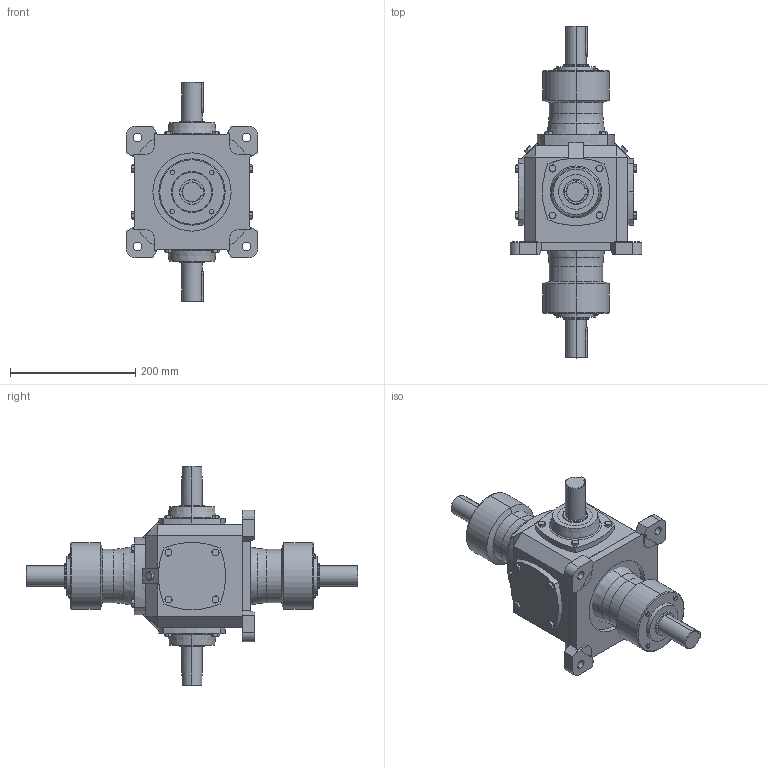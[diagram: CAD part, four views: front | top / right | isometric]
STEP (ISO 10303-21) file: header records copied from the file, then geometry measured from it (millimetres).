
FILE_DESCRIPTION (( 'STEP AP203' ), '1' );
FILE_NAME ('TC7-1-WXH1-E1.step', '2018-07-12T06:41:05', ( 'IT Division' ), ( 'IT' ), 'SwSTEP 2.0', 'SolidWorks 2016', '' );
FILE_SCHEMA (( 'CONFIG_CONTROL_DESIGN' ));
Length unit declared in the file: millimetre
Products named in the file (1): TC7-1-WXH1-E1
Bounding box: 210 x 530 x 350 mm (x, y, z)
Volume: 7130256.6 mm3; surface area: 373590.1 mm2
Topology: 2 solids, 2 shells, 692 faces, 1645 edges, 1004 vertices
Faces by surface type: plane 335, cone 238, cylinder 103, torus 16
Entity records: 20919 total; most frequent: CARTESIAN_POINT 5385, ORIENTED_EDGE 3290, DIRECTION 3077, EDGE_CURVE 1645, AXIS2_PLACEMENT_3D 1140, VERTEX_POINT 1004, LINE 797, VECTOR 797
